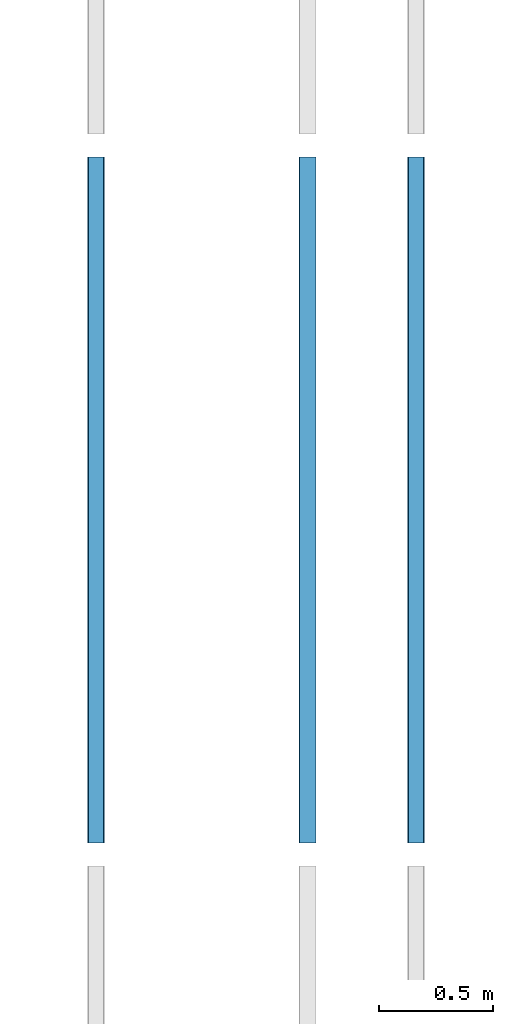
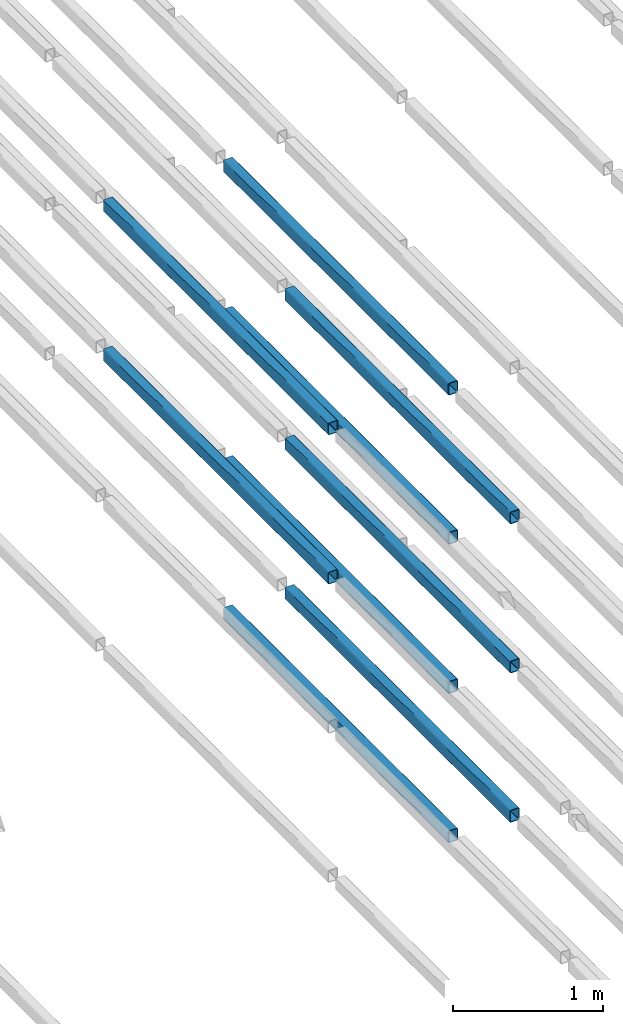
# One storey, part 59 of 290: 9 beams.
"""IFC2X3 building model written with IfcOpenShell, lengths in metres."""

from ifc_helpers import new_model, entity, si_unit, converted_unit, derived_unit, direction, frame, frame_2d, origin, place, context, subcontext, project, spatial, polyline, circle_curve, parameter, trimmed, segment, composite_curve, outline, extrude, material, type_object, element, save


model = new_model("IFC2X3")

# Units and contexts
model_context = context("Model", 3, precision=1e-05, world=origin(), true_north=direction((6.12303176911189e-17, 1.0)))
body_context = subcontext(model_context, "Body", "Model", "MODEL_VIEW")
ifc_project = project(units=[si_unit("LENGTHUNIT", "METRE"), si_unit("AREAUNIT", "SQUARE_METRE"), si_unit("VOLUMEUNIT", "CUBIC_METRE"), converted_unit("PLANEANGLEUNIT", "DEGREE", entity("IfcRatioMeasure", 0.0174532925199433), si_unit("PLANEANGLEUNIT", "RADIAN"), dimensions=[0, 0, 0, 0, 0, 0, 0]), si_unit("MASSUNIT", "GRAM", prefix="KILO"), derived_unit("MASSDENSITYUNIT", [(si_unit("MASSUNIT", "GRAM", prefix="KILO"), 1), (si_unit("LENGTHUNIT", "METRE"), -3)]), derived_unit("MOMENTOFINERTIAUNIT", [(si_unit("LENGTHUNIT", "METRE"), 4)]), si_unit("TIMEUNIT", "SECOND"), si_unit("FREQUENCYUNIT", "HERTZ"), si_unit("THERMODYNAMICTEMPERATUREUNIT", "DEGREE_CELSIUS"), derived_unit("THERMALTRANSMITTANCEUNIT", [(si_unit("MASSUNIT", "GRAM", prefix="KILO"), 1), (si_unit("THERMODYNAMICTEMPERATUREUNIT", "KELVIN"), -1), (si_unit("TIMEUNIT", "SECOND"), -3)]), derived_unit("VOLUMETRICFLOWRATEUNIT", [(si_unit("LENGTHUNIT", "METRE"), 3), (si_unit("TIMEUNIT", "SECOND"), -1)]), si_unit("ELECTRICCURRENTUNIT", "AMPERE"), si_unit("ELECTRICVOLTAGEUNIT", "VOLT"), si_unit("POWERUNIT", "WATT"), si_unit("FORCEUNIT", "NEWTON", prefix="KILO"), si_unit("ILLUMINANCEUNIT", "LUX"), si_unit("LUMINOUSFLUXUNIT", "LUMEN"), si_unit("LUMINOUSINTENSITYUNIT", "CANDELA"), derived_unit("USERDEFINED", [(si_unit("MASSUNIT", "GRAM", prefix="KILO"), -1), (si_unit("LENGTHUNIT", "METRE"), -2), (si_unit("TIMEUNIT", "SECOND"), 3), (si_unit("LUMINOUSFLUXUNIT", "LUMEN"), 1)]), derived_unit("LINEARVELOCITYUNIT", [(si_unit("LENGTHUNIT", "METRE"), 1), (si_unit("TIMEUNIT", "SECOND"), -1)]), si_unit("PRESSUREUNIT", "PASCAL"), derived_unit("USERDEFINED", [(si_unit("LENGTHUNIT", "METRE"), -2), (si_unit("MASSUNIT", "GRAM", prefix="KILO"), 1), (si_unit("TIMEUNIT", "SECOND"), -2)]), derived_unit("LINEARFORCEUNIT", [(si_unit("MASSUNIT", "GRAM", prefix="KILO"), 1), (si_unit("LENGTHUNIT", "METRE"), 1), (si_unit("TIMEUNIT", "SECOND"), -2), (si_unit("LENGTHUNIT", "METRE"), -1)]), derived_unit("PLANARFORCEUNIT", [(si_unit("MASSUNIT", "GRAM", prefix="KILO"), 1), (si_unit("LENGTHUNIT", "METRE"), 1), (si_unit("TIMEUNIT", "SECOND"), -2), (si_unit("LENGTHUNIT", "METRE"), -2)])], contexts=[model_context])

# Site, building, storey
site_placement = place(None, origin())
site = spatial("IfcSite", under=ifc_project, at=site_placement, Name="Default", CompositionType="ELEMENT")
building_placement = place(site_placement, origin())
building = spatial("IfcBuilding", under=site, at=building_placement, CompositionType="ELEMENT")
storey_placement = place(building_placement, frame((0.0, 0.0, 4.0)))
storey = spatial("IfcBuildingStorey", under=building, at=storey_placement, Name="01_OG", CompositionType="ELEMENT", Elevation=4.0)

# Beams
ifc_material = material(Name="Metall - Baustahl S235 blau")
beam_type = type_object("IfcBeamType", Name="RHS Träger (EN 10219-2):RHS 100 x 75 x 5", PredefinedType="NOTDEFINED")
beam_1_placement = place(storey_placement, frame((-196.415111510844, 39.548088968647, 1.23), z_axis=(0.0, 0.0, 1.0), x_axis=(0.0, 1.0, 0.0)))
element("IfcBeam", 1, at=beam_1_placement, inside=storey, type_object=beam_type, material=ifc_material, Name="RHS Träger (EN 10219-2):RHS 100 x 75 x 5", ObjectType="RHS Träger (EN 10219-2):RHS 100 x 75 x 5", context=body_context, shape_type="SweptSolid", body=[
    extrude(outline(composite_curve([segment(trimmed(circle_curve(frame_2d((-0.0274999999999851, -0.0399999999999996), x_axis=(1.0, 0.0)), 0.01), [parameter(180.0)], [parameter(270.0)], True, "PARAMETER"), True, "CONTINUOUS"), segment(polyline([(-0.0274999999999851, -0.0499999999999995), (0.0274999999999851, -0.0499999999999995)]), True, "CONTINUOUS"), segment(trimmed(circle_curve(frame_2d((0.0274999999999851, -0.0399999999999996), x_axis=(1.0, 0.0)), 0.01), [parameter(270.0)], [parameter(5.08888749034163e-14)], True, "PARAMETER"), True, "CONTINUOUS"), segment(polyline([(0.0375000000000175, -0.0399999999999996), (0.0375000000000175, 0.0399999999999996)]), True, "CONTINUOUS"), segment(trimmed(circle_curve(frame_2d((0.0274999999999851, 0.0399999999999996), x_axis=(1.0, 0.0)), 0.01), [parameter(360.0)], [parameter(89.9999999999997)], True, "PARAMETER"), True, "CONTINUOUS"), segment(polyline([(0.0274999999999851, 0.0500000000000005), (-0.0274999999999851, 0.0500000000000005)]), True, "CONTINUOUS"), segment(trimmed(circle_curve(frame_2d((-0.0274999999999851, 0.0399999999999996), x_axis=(1.0, 0.0)), 0.01), [parameter(90.0000000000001)], [parameter(180.0)], True, "PARAMETER"), True, "CONTINUOUS"), segment(polyline([(-0.0374999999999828, 0.0399999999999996), (-0.0374999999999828, -0.0399999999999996)]), True, "CONTINUOUS")], self_intersect=False), holes=[composite_curve([segment(polyline([(0.0274999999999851, -0.0450000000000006), (-0.0274999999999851, -0.0450000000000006)]), True, "CONTINUOUS"), segment(trimmed(circle_curve(frame_2d((-0.0274999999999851, -0.0400000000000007), x_axis=(1.0, 0.0)), 0.005), [parameter(180.0)], [parameter(270.0)], True, "PARAMETER"), False, "CONTINUOUS"), segment(polyline([(-0.0325000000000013, -0.0400000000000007), (-0.0325000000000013, 0.0399999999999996)]), True, "CONTINUOUS"), segment(trimmed(circle_curve(frame_2d((-0.0274999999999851, 0.0399999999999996), x_axis=(1.0, 0.0)), 0.005), [parameter(90.0000000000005)], [parameter(180.0)], True, "PARAMETER"), False, "CONTINUOUS"), segment(polyline([(-0.0274999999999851, 0.0449999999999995), (0.0274999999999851, 0.0449999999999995)]), True, "CONTINUOUS"), segment(trimmed(circle_curve(frame_2d((0.0274999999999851, 0.0399999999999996), x_axis=(1.0, 0.0)), 0.005), [parameter(0.0)], [parameter(90.0000000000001)], True, "PARAMETER"), False, "CONTINUOUS"), segment(polyline([(0.0325000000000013, 0.0399999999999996), (0.0325000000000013, -0.0400000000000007)]), True, "CONTINUOUS"), segment(trimmed(circle_curve(frame_2d((0.0274999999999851, -0.0400000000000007), x_axis=(1.0, 0.0)), 0.005), [parameter(270.0)], [parameter(4.07110999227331e-13)], True, "PARAMETER"), False, "CONTINUOUS")], self_intersect=False)]), frame((0.000100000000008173, 0.0375000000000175, -0.0500000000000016), z_axis=(1.0, 0.0, 0.0), x_axis=(0.0, -1.0, 0.0)), (0.0, 0.0, 1.0), 2.99979999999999),
])
beam_2_placement = place(storey_placement, frame((-196.415111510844, 39.548088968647, 2.445), z_axis=(0.0, 0.0, 1.0), x_axis=(0.0, 1.0, 0.0)))
element("IfcBeam", 2, at=beam_2_placement, inside=storey, type_object=beam_type, material=ifc_material, Name="RHS Träger (EN 10219-2):RHS 100 x 75 x 5", ObjectType="RHS Träger (EN 10219-2):RHS 100 x 75 x 5", context=body_context, shape_type="SweptSolid", body=[
    extrude(outline(composite_curve([segment(trimmed(circle_curve(frame_2d((-0.0274999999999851, -0.0399999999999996), x_axis=(1.0, 0.0)), 0.01), [parameter(180.0)], [parameter(270.0)], True, "PARAMETER"), True, "CONTINUOUS"), segment(polyline([(-0.0274999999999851, -0.0499999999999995), (0.0274999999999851, -0.0499999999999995)]), True, "CONTINUOUS"), segment(trimmed(circle_curve(frame_2d((0.0274999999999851, -0.0399999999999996), x_axis=(1.0, 0.0)), 0.01), [parameter(270.0)], [parameter(5.08888749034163e-14)], True, "PARAMETER"), True, "CONTINUOUS"), segment(polyline([(0.0375000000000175, -0.0399999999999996), (0.0375000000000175, 0.0399999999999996)]), True, "CONTINUOUS"), segment(trimmed(circle_curve(frame_2d((0.0274999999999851, 0.0399999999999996), x_axis=(1.0, 0.0)), 0.01), [parameter(360.0)], [parameter(89.9999999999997)], True, "PARAMETER"), True, "CONTINUOUS"), segment(polyline([(0.0274999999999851, 0.0500000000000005), (-0.0274999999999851, 0.0500000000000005)]), True, "CONTINUOUS"), segment(trimmed(circle_curve(frame_2d((-0.0274999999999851, 0.0399999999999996), x_axis=(1.0, 0.0)), 0.01), [parameter(90.0000000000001)], [parameter(180.0)], True, "PARAMETER"), True, "CONTINUOUS"), segment(polyline([(-0.0374999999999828, 0.0399999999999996), (-0.0374999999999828, -0.0399999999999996)]), True, "CONTINUOUS")], self_intersect=False), holes=[composite_curve([segment(polyline([(0.0274999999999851, -0.0450000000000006), (-0.0274999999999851, -0.0450000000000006)]), True, "CONTINUOUS"), segment(trimmed(circle_curve(frame_2d((-0.0274999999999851, -0.0400000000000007), x_axis=(1.0, 0.0)), 0.005), [parameter(180.0)], [parameter(270.0)], True, "PARAMETER"), False, "CONTINUOUS"), segment(polyline([(-0.0325000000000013, -0.0400000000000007), (-0.0325000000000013, 0.0399999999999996)]), True, "CONTINUOUS"), segment(trimmed(circle_curve(frame_2d((-0.0274999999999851, 0.0399999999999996), x_axis=(1.0, 0.0)), 0.005), [parameter(90.0000000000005)], [parameter(180.0)], True, "PARAMETER"), False, "CONTINUOUS"), segment(polyline([(-0.0274999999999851, 0.0449999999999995), (0.0274999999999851, 0.0449999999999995)]), True, "CONTINUOUS"), segment(trimmed(circle_curve(frame_2d((0.0274999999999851, 0.0399999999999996), x_axis=(1.0, 0.0)), 0.005), [parameter(0.0)], [parameter(90.0000000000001)], True, "PARAMETER"), False, "CONTINUOUS"), segment(polyline([(0.0325000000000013, 0.0399999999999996), (0.0325000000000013, -0.0400000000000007)]), True, "CONTINUOUS"), segment(trimmed(circle_curve(frame_2d((0.0274999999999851, -0.0400000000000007), x_axis=(1.0, 0.0)), 0.005), [parameter(270.0)], [parameter(4.07110999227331e-13)], True, "PARAMETER"), False, "CONTINUOUS")], self_intersect=False)]), frame((0.000100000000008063, 0.0375000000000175, -0.0500000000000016), z_axis=(1.0, 0.0, 0.0), x_axis=(0.0, -1.0, 0.0)), (0.0, 0.0, 1.0), 2.99979999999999),
])
beam_3_placement = place(storey_placement, frame((-195.565111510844, 39.548088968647, -1.2), z_axis=(0.0, 0.0, 1.0), x_axis=(0.0, 1.0, 0.0)))
element("IfcBeam", 3, at=beam_3_placement, inside=storey, type_object=beam_type, material=ifc_material, Name="RHS Träger (EN 10219-2):RHS 100 x 75 x 5", ObjectType="RHS Träger (EN 10219-2):RHS 100 x 75 x 5", context=body_context, shape_type="SweptSolid", body=[
    extrude(outline(composite_curve([segment(polyline([(-0.0400000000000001, -0.0374999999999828), (0.0400000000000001, -0.0374999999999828)]), True, "CONTINUOUS"), segment(trimmed(circle_curve(frame_2d((0.0400000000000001, -0.0274999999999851), x_axis=(0.0, 1.0)), 0.01), [parameter(180.0)], [parameter(270.0)], True, "PARAMETER"), True, "CONTINUOUS"), segment(polyline([(0.05, -0.0274999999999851), (0.05, 0.0274999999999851)]), True, "CONTINUOUS"), segment(trimmed(circle_curve(frame_2d((0.0400000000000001, 0.0274999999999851), x_axis=(0.0, 1.0)), 0.01), [parameter(270.0)], [parameter(4.07110999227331e-13)], True, "PARAMETER"), True, "CONTINUOUS"), segment(polyline([(0.0400000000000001, 0.0375000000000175), (-0.0400000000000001, 0.0375000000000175)]), True, "CONTINUOUS"), segment(trimmed(circle_curve(frame_2d((-0.0400000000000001, 0.0274999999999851), x_axis=(0.0, 1.0)), 0.01), [parameter(360.0)], [parameter(90.0000000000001)], True, "PARAMETER"), True, "CONTINUOUS"), segment(polyline([(-0.05, 0.0274999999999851), (-0.05, -0.0274999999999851)]), True, "CONTINUOUS"), segment(trimmed(circle_curve(frame_2d((-0.0400000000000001, -0.0274999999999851), x_axis=(0.0, 1.0)), 0.01), [parameter(90.0000000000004)], [parameter(180.0)], True, "PARAMETER"), True, "CONTINUOUS")], self_intersect=False), holes=[composite_curve([segment(trimmed(circle_curve(frame_2d((-0.0400000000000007, 0.0274999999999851), x_axis=(0.0, 1.0)), 0.005), [parameter(360.0)], [parameter(89.9999999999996)], True, "PARAMETER"), False, "CONTINUOUS"), segment(polyline([(-0.0400000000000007, 0.0325000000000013), (0.039999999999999, 0.0325000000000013)]), True, "CONTINUOUS"), segment(trimmed(circle_curve(frame_2d((0.039999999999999, 0.0274999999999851), x_axis=(0.0, 1.0)), 0.005), [parameter(270.0)], [parameter(0.0)], True, "PARAMETER"), False, "CONTINUOUS"), segment(polyline([(0.044999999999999, 0.0274999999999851), (0.044999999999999, -0.0274999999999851)]), True, "CONTINUOUS"), segment(trimmed(circle_curve(frame_2d((0.039999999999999, -0.0274999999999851), x_axis=(0.0, 1.0)), 0.005), [parameter(180.0)], [parameter(269.999999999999)], True, "PARAMETER"), False, "CONTINUOUS"), segment(polyline([(0.039999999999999, -0.0325000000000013), (-0.0400000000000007, -0.0325000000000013)]), True, "CONTINUOUS"), segment(trimmed(circle_curve(frame_2d((-0.0400000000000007, -0.0274999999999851), x_axis=(0.0, 1.0)), 0.005), [parameter(90.0000000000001)], [parameter(180.0)], True, "PARAMETER"), False, "CONTINUOUS"), segment(polyline([(-0.0450000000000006, -0.0274999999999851), (-0.0450000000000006, 0.0274999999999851)]), True, "CONTINUOUS")], self_intersect=False)]), frame((0.000100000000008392, -0.0375000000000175, -0.0500000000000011), z_axis=(1.0, 0.0, 0.0), x_axis=(0.0, 0.0, -1.0)), (0.0, 0.0, 1.0), 2.99979999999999),
])
beam_4_placement = place(storey_placement, frame((-195.565111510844, 39.548088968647, 0.0150000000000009), z_axis=(0.0, 0.0, 1.0), x_axis=(0.0, 1.0, 0.0)))
element("IfcBeam", 4, at=beam_4_placement, inside=storey, type_object=beam_type, material=ifc_material, Name="RHS Träger (EN 10219-2):RHS 100 x 75 x 5", ObjectType="RHS Träger (EN 10219-2):RHS 100 x 75 x 5", context=body_context, shape_type="SweptSolid", body=[
    extrude(outline(composite_curve([segment(polyline([(-0.0400000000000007, -0.0374999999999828), (0.0399999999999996, -0.0374999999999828)]), True, "CONTINUOUS"), segment(trimmed(circle_curve(frame_2d((0.0399999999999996, -0.0274999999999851), x_axis=(0.0, 1.0)), 0.01), [parameter(180.0)], [parameter(270.0)], True, "PARAMETER"), True, "CONTINUOUS"), segment(polyline([(0.0499999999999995, -0.0274999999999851), (0.0499999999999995, 0.0274999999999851)]), True, "CONTINUOUS"), segment(trimmed(circle_curve(frame_2d((0.0399999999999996, 0.0274999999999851), x_axis=(0.0, 1.0)), 0.01), [parameter(270.0)], [parameter(4.07110999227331e-13)], True, "PARAMETER"), True, "CONTINUOUS"), segment(polyline([(0.0399999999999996, 0.0375000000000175), (-0.0400000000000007, 0.0375000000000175)]), True, "CONTINUOUS"), segment(trimmed(circle_curve(frame_2d((-0.0400000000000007, 0.0274999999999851), x_axis=(0.0, 1.0)), 0.01), [parameter(360.0)], [parameter(90.0000000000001)], True, "PARAMETER"), True, "CONTINUOUS"), segment(polyline([(-0.0500000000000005, 0.0274999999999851), (-0.0500000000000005, -0.0274999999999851)]), True, "CONTINUOUS"), segment(trimmed(circle_curve(frame_2d((-0.0400000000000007, -0.0274999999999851), x_axis=(0.0, 1.0)), 0.01), [parameter(90.0000000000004)], [parameter(180.0)], True, "PARAMETER"), True, "CONTINUOUS")], self_intersect=False), holes=[composite_curve([segment(trimmed(circle_curve(frame_2d((-0.0400000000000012, 0.0274999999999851), x_axis=(0.0, 1.0)), 0.005), [parameter(360.0)], [parameter(89.9999999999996)], True, "PARAMETER"), False, "CONTINUOUS"), segment(polyline([(-0.0400000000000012, 0.0325000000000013), (0.0399999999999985, 0.0325000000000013)]), True, "CONTINUOUS"), segment(trimmed(circle_curve(frame_2d((0.0399999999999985, 0.0274999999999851), x_axis=(0.0, 1.0)), 0.005), [parameter(270.0)], [parameter(0.0)], True, "PARAMETER"), False, "CONTINUOUS"), segment(polyline([(0.0449999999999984, 0.0274999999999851), (0.0449999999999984, -0.0274999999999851)]), True, "CONTINUOUS"), segment(trimmed(circle_curve(frame_2d((0.0399999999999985, -0.0274999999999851), x_axis=(0.0, 1.0)), 0.005), [parameter(180.0)], [parameter(269.999999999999)], True, "PARAMETER"), False, "CONTINUOUS"), segment(polyline([(0.0399999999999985, -0.0325000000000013), (-0.0400000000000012, -0.0325000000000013)]), True, "CONTINUOUS"), segment(trimmed(circle_curve(frame_2d((-0.0400000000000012, -0.0274999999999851), x_axis=(0.0, 1.0)), 0.005), [parameter(90.0000000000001)], [parameter(180.0)], True, "PARAMETER"), False, "CONTINUOUS"), segment(polyline([(-0.0450000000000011, -0.0274999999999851), (-0.0450000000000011, 0.0274999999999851)]), True, "CONTINUOUS")], self_intersect=False)]), frame((0.000100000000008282, -0.0375000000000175, -0.0500000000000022), z_axis=(1.0, 0.0, 0.0), x_axis=(0.0, 0.0, -1.0)), (0.0, 0.0, 1.0), 2.99979999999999),
])
beam_5_placement = place(storey_placement, frame((-195.565111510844, 39.548088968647, 1.23), z_axis=(0.0, 0.0, 1.0), x_axis=(0.0, 1.0, 0.0)))
element("IfcBeam", 5, at=beam_5_placement, inside=storey, type_object=beam_type, material=ifc_material, Name="RHS Träger (EN 10219-2):RHS 100 x 75 x 5", ObjectType="RHS Träger (EN 10219-2):RHS 100 x 75 x 5", context=body_context, shape_type="SweptSolid", body=[
    extrude(outline(composite_curve([segment(polyline([(-0.0399999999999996, -0.0374999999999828), (0.0399999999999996, -0.0374999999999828)]), True, "CONTINUOUS"), segment(trimmed(circle_curve(frame_2d((0.0399999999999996, -0.0274999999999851), x_axis=(0.0, 1.0)), 0.01), [parameter(180.0)], [parameter(270.0)], True, "PARAMETER"), True, "CONTINUOUS"), segment(polyline([(0.0500000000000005, -0.0274999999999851), (0.0500000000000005, 0.0274999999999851)]), True, "CONTINUOUS"), segment(trimmed(circle_curve(frame_2d((0.0399999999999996, 0.0274999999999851), x_axis=(0.0, 1.0)), 0.01), [parameter(270.0)], [parameter(4.07110999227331e-13)], True, "PARAMETER"), True, "CONTINUOUS"), segment(polyline([(0.0399999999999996, 0.0375000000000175), (-0.0399999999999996, 0.0375000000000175)]), True, "CONTINUOUS"), segment(trimmed(circle_curve(frame_2d((-0.0399999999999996, 0.0274999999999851), x_axis=(0.0, 1.0)), 0.01), [parameter(360.0)], [parameter(90.0000000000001)], True, "PARAMETER"), True, "CONTINUOUS"), segment(polyline([(-0.0499999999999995, 0.0274999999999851), (-0.0499999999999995, -0.0274999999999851)]), True, "CONTINUOUS"), segment(trimmed(circle_curve(frame_2d((-0.0399999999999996, -0.0274999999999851), x_axis=(0.0, 1.0)), 0.01), [parameter(90.0000000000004)], [parameter(180.0)], True, "PARAMETER"), True, "CONTINUOUS")], self_intersect=False), holes=[composite_curve([segment(trimmed(circle_curve(frame_2d((-0.0400000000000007, 0.0274999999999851), x_axis=(0.0, 1.0)), 0.005), [parameter(360.0)], [parameter(89.9999999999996)], True, "PARAMETER"), False, "CONTINUOUS"), segment(polyline([(-0.0400000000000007, 0.0325000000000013), (0.0399999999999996, 0.0325000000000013)]), True, "CONTINUOUS"), segment(trimmed(circle_curve(frame_2d((0.0399999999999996, 0.0274999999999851), x_axis=(0.0, 1.0)), 0.005), [parameter(270.0)], [parameter(0.0)], True, "PARAMETER"), False, "CONTINUOUS"), segment(polyline([(0.0449999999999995, 0.0274999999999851), (0.0449999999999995, -0.0274999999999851)]), True, "CONTINUOUS"), segment(trimmed(circle_curve(frame_2d((0.0399999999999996, -0.0274999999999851), x_axis=(0.0, 1.0)), 0.005), [parameter(180.0)], [parameter(269.999999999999)], True, "PARAMETER"), False, "CONTINUOUS"), segment(polyline([(0.0399999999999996, -0.0325000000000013), (-0.0400000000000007, -0.0325000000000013)]), True, "CONTINUOUS"), segment(trimmed(circle_curve(frame_2d((-0.0400000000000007, -0.0274999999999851), x_axis=(0.0, 1.0)), 0.005), [parameter(90.0000000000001)], [parameter(180.0)], True, "PARAMETER"), False, "CONTINUOUS"), segment(polyline([(-0.0450000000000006, -0.0274999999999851), (-0.0450000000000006, 0.0274999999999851)]), True, "CONTINUOUS")], self_intersect=False)]), frame((0.000100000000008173, -0.0375000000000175, -0.0500000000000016), z_axis=(1.0, 0.0, 0.0), x_axis=(0.0, 0.0, -1.0)), (0.0, 0.0, 1.0), 2.99979999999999),
])
beam_6_placement = place(storey_placement, frame((-195.565111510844, 39.548088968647, 2.445), z_axis=(0.0, 0.0, 1.0), x_axis=(0.0, 1.0, 0.0)))
element("IfcBeam", 6, at=beam_6_placement, inside=storey, type_object=beam_type, material=ifc_material, Name="RHS Träger (EN 10219-2):RHS 100 x 75 x 5", ObjectType="RHS Träger (EN 10219-2):RHS 100 x 75 x 5", context=body_context, shape_type="SweptSolid", body=[
    extrude(outline(composite_curve([segment(polyline([(-0.0399999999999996, -0.0374999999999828), (0.0399999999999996, -0.0374999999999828)]), True, "CONTINUOUS"), segment(trimmed(circle_curve(frame_2d((0.0399999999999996, -0.0274999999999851), x_axis=(0.0, 1.0)), 0.01), [parameter(180.0)], [parameter(270.0)], True, "PARAMETER"), True, "CONTINUOUS"), segment(polyline([(0.0500000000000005, -0.0274999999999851), (0.0500000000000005, 0.0274999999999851)]), True, "CONTINUOUS"), segment(trimmed(circle_curve(frame_2d((0.0399999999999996, 0.0274999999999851), x_axis=(0.0, 1.0)), 0.01), [parameter(270.0)], [parameter(4.07110999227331e-13)], True, "PARAMETER"), True, "CONTINUOUS"), segment(polyline([(0.0399999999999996, 0.0375000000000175), (-0.0399999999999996, 0.0375000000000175)]), True, "CONTINUOUS"), segment(trimmed(circle_curve(frame_2d((-0.0399999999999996, 0.0274999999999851), x_axis=(0.0, 1.0)), 0.01), [parameter(360.0)], [parameter(90.0000000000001)], True, "PARAMETER"), True, "CONTINUOUS"), segment(polyline([(-0.0499999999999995, 0.0274999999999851), (-0.0499999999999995, -0.0274999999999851)]), True, "CONTINUOUS"), segment(trimmed(circle_curve(frame_2d((-0.0399999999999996, -0.0274999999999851), x_axis=(0.0, 1.0)), 0.01), [parameter(90.0000000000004)], [parameter(180.0)], True, "PARAMETER"), True, "CONTINUOUS")], self_intersect=False), holes=[composite_curve([segment(trimmed(circle_curve(frame_2d((-0.0400000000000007, 0.0274999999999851), x_axis=(0.0, 1.0)), 0.005), [parameter(360.0)], [parameter(89.9999999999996)], True, "PARAMETER"), False, "CONTINUOUS"), segment(polyline([(-0.0400000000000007, 0.0325000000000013), (0.0399999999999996, 0.0325000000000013)]), True, "CONTINUOUS"), segment(trimmed(circle_curve(frame_2d((0.0399999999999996, 0.0274999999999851), x_axis=(0.0, 1.0)), 0.005), [parameter(270.0)], [parameter(0.0)], True, "PARAMETER"), False, "CONTINUOUS"), segment(polyline([(0.0449999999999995, 0.0274999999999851), (0.0449999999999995, -0.0274999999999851)]), True, "CONTINUOUS"), segment(trimmed(circle_curve(frame_2d((0.0399999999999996, -0.0274999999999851), x_axis=(0.0, 1.0)), 0.005), [parameter(180.0)], [parameter(269.999999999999)], True, "PARAMETER"), False, "CONTINUOUS"), segment(polyline([(0.0399999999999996, -0.0325000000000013), (-0.0400000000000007, -0.0325000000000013)]), True, "CONTINUOUS"), segment(trimmed(circle_curve(frame_2d((-0.0400000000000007, -0.0274999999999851), x_axis=(0.0, 1.0)), 0.005), [parameter(90.0000000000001)], [parameter(180.0)], True, "PARAMETER"), False, "CONTINUOUS"), segment(polyline([(-0.0450000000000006, -0.0274999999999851), (-0.0450000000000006, 0.0274999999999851)]), True, "CONTINUOUS")], self_intersect=False)]), frame((0.000100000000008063, -0.0375000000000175, -0.0500000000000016), z_axis=(1.0, 0.0, 0.0), x_axis=(0.0, 0.0, -1.0)), (0.0, 0.0, 1.0), 2.99979999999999),
])
beam_7_placement = place(storey_placement, frame((-195.015111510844, 39.548088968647, -1.2), z_axis=(0.0, 0.0, 1.0), x_axis=(0.0, 1.0, 0.0)))
element("IfcBeam", 7, at=beam_7_placement, inside=storey, type_object=beam_type, material=ifc_material, Name="RHS Träger (EN 10219-2):RHS 100 x 75 x 5", ObjectType="RHS Träger (EN 10219-2):RHS 100 x 75 x 5", context=body_context, shape_type="SweptSolid", body=[
    extrude(outline(composite_curve([segment(trimmed(circle_curve(frame_2d((-0.0275000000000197, -0.0400000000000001), x_axis=(1.0, 0.0)), 0.01), [parameter(180.0)], [parameter(270.0)], True, "PARAMETER"), True, "CONTINUOUS"), segment(polyline([(-0.0275000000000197, -0.05), (0.0274999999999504, -0.05)]), True, "CONTINUOUS"), segment(trimmed(circle_curve(frame_2d((0.0274999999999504, -0.0400000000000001), x_axis=(1.0, 0.0)), 0.01), [parameter(270.0)], [parameter(5.08888749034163e-14)], True, "PARAMETER"), True, "CONTINUOUS"), segment(polyline([(0.0374999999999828, -0.0400000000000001), (0.0374999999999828, 0.0400000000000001)]), True, "CONTINUOUS"), segment(trimmed(circle_curve(frame_2d((0.0274999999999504, 0.0400000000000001), x_axis=(1.0, 0.0)), 0.01), [parameter(360.0)], [parameter(89.9999999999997)], True, "PARAMETER"), True, "CONTINUOUS"), segment(polyline([(0.0274999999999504, 0.05), (-0.0275000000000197, 0.05)]), True, "CONTINUOUS"), segment(trimmed(circle_curve(frame_2d((-0.0275000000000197, 0.0400000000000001), x_axis=(1.0, 0.0)), 0.01), [parameter(90.0000000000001)], [parameter(180.0)], True, "PARAMETER"), True, "CONTINUOUS"), segment(polyline([(-0.0375000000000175, 0.0400000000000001), (-0.0375000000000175, -0.0400000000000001)]), True, "CONTINUOUS")], self_intersect=False), holes=[composite_curve([segment(polyline([(0.0274999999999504, -0.0450000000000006), (-0.0275000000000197, -0.0450000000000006)]), True, "CONTINUOUS"), segment(trimmed(circle_curve(frame_2d((-0.0275000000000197, -0.0400000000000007), x_axis=(1.0, 0.0)), 0.005), [parameter(180.0)], [parameter(270.0)], True, "PARAMETER"), False, "CONTINUOUS"), segment(polyline([(-0.0325000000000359, -0.0400000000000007), (-0.0325000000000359, 0.039999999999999)]), True, "CONTINUOUS"), segment(trimmed(circle_curve(frame_2d((-0.0275000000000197, 0.039999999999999), x_axis=(1.0, 0.0)), 0.005), [parameter(90.0000000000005)], [parameter(180.0)], True, "PARAMETER"), False, "CONTINUOUS"), segment(polyline([(-0.0275000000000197, 0.044999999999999), (0.0274999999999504, 0.044999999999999)]), True, "CONTINUOUS"), segment(trimmed(circle_curve(frame_2d((0.0274999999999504, 0.039999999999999), x_axis=(1.0, 0.0)), 0.005), [parameter(0.0)], [parameter(90.0000000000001)], True, "PARAMETER"), False, "CONTINUOUS"), segment(polyline([(0.0324999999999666, 0.039999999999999), (0.0324999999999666, -0.0400000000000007)]), True, "CONTINUOUS"), segment(trimmed(circle_curve(frame_2d((0.0274999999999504, -0.0400000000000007), x_axis=(1.0, 0.0)), 0.005), [parameter(270.0)], [parameter(4.07110999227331e-13)], True, "PARAMETER"), False, "CONTINUOUS")], self_intersect=False)]), frame((0.000100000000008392, 0.0374999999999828, -0.0500000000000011), z_axis=(1.0, 0.0, 0.0), x_axis=(0.0, -1.0, 0.0)), (0.0, 0.0, 1.0), 2.99979999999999),
])
beam_8_placement = place(storey_placement, frame((-195.015111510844, 39.548088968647, 0.0150000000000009), z_axis=(0.0, 0.0, 1.0), x_axis=(0.0, 1.0, 0.0)))
element("IfcBeam", 8, at=beam_8_placement, inside=storey, type_object=beam_type, material=ifc_material, Name="RHS Träger (EN 10219-2):RHS 100 x 75 x 5", ObjectType="RHS Träger (EN 10219-2):RHS 100 x 75 x 5", context=body_context, shape_type="SweptSolid", body=[
    extrude(outline(composite_curve([segment(trimmed(circle_curve(frame_2d((-0.0275000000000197, -0.0400000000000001), x_axis=(1.0, 0.0)), 0.01), [parameter(180.0)], [parameter(270.0)], True, "PARAMETER"), True, "CONTINUOUS"), segment(polyline([(-0.0275000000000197, -0.05), (0.0274999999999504, -0.05)]), True, "CONTINUOUS"), segment(trimmed(circle_curve(frame_2d((0.0274999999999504, -0.0400000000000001), x_axis=(1.0, 0.0)), 0.01), [parameter(270.0)], [parameter(5.08888749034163e-14)], True, "PARAMETER"), True, "CONTINUOUS"), segment(polyline([(0.0374999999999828, -0.0400000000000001), (0.0374999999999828, 0.0400000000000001)]), True, "CONTINUOUS"), segment(trimmed(circle_curve(frame_2d((0.0274999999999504, 0.0400000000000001), x_axis=(1.0, 0.0)), 0.01), [parameter(360.0)], [parameter(89.9999999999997)], True, "PARAMETER"), True, "CONTINUOUS"), segment(polyline([(0.0274999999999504, 0.05), (-0.0275000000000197, 0.05)]), True, "CONTINUOUS"), segment(trimmed(circle_curve(frame_2d((-0.0275000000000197, 0.0400000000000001), x_axis=(1.0, 0.0)), 0.01), [parameter(90.0000000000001)], [parameter(180.0)], True, "PARAMETER"), True, "CONTINUOUS"), segment(polyline([(-0.0375000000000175, 0.0400000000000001), (-0.0375000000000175, -0.0400000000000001)]), True, "CONTINUOUS")], self_intersect=False), holes=[composite_curve([segment(polyline([(0.0274999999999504, -0.0450000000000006), (-0.0275000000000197, -0.0450000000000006)]), True, "CONTINUOUS"), segment(trimmed(circle_curve(frame_2d((-0.0275000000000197, -0.0400000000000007), x_axis=(1.0, 0.0)), 0.005), [parameter(180.0)], [parameter(270.0)], True, "PARAMETER"), False, "CONTINUOUS"), segment(polyline([(-0.0325000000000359, -0.0400000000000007), (-0.0325000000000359, 0.039999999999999)]), True, "CONTINUOUS"), segment(trimmed(circle_curve(frame_2d((-0.0275000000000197, 0.039999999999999), x_axis=(1.0, 0.0)), 0.005), [parameter(90.0000000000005)], [parameter(180.0)], True, "PARAMETER"), False, "CONTINUOUS"), segment(polyline([(-0.0275000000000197, 0.044999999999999), (0.0274999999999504, 0.044999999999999)]), True, "CONTINUOUS"), segment(trimmed(circle_curve(frame_2d((0.0274999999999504, 0.039999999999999), x_axis=(1.0, 0.0)), 0.005), [parameter(0.0)], [parameter(90.0000000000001)], True, "PARAMETER"), False, "CONTINUOUS"), segment(polyline([(0.0324999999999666, 0.039999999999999), (0.0324999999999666, -0.0400000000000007)]), True, "CONTINUOUS"), segment(trimmed(circle_curve(frame_2d((0.0274999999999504, -0.0400000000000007), x_axis=(1.0, 0.0)), 0.005), [parameter(270.0)], [parameter(4.07110999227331e-13)], True, "PARAMETER"), False, "CONTINUOUS")], self_intersect=False)]), frame((0.000100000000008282, 0.0374999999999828, -0.0500000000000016), z_axis=(1.0, 0.0, 0.0), x_axis=(0.0, -1.0, 0.0)), (0.0, 0.0, 1.0), 2.99979999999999),
])
beam_9_placement = place(storey_placement, frame((-195.015111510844, 39.548088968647, 1.23), z_axis=(0.0, 0.0, 1.0), x_axis=(0.0, 1.0, 0.0)))
element("IfcBeam", 9, at=beam_9_placement, inside=storey, type_object=beam_type, material=ifc_material, Name="RHS Träger (EN 10219-2):RHS 100 x 75 x 5", ObjectType="RHS Träger (EN 10219-2):RHS 100 x 75 x 5", context=body_context, shape_type="SweptSolid", body=[
    extrude(outline(composite_curve([segment(trimmed(circle_curve(frame_2d((-0.0275000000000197, -0.0399999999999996), x_axis=(1.0, 0.0)), 0.01), [parameter(180.0)], [parameter(270.0)], True, "PARAMETER"), True, "CONTINUOUS"), segment(polyline([(-0.0275000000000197, -0.0499999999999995), (0.0274999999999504, -0.0499999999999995)]), True, "CONTINUOUS"), segment(trimmed(circle_curve(frame_2d((0.0274999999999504, -0.0399999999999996), x_axis=(1.0, 0.0)), 0.01), [parameter(270.0)], [parameter(5.08888749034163e-14)], True, "PARAMETER"), True, "CONTINUOUS"), segment(polyline([(0.0374999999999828, -0.0399999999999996), (0.0374999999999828, 0.0399999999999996)]), True, "CONTINUOUS"), segment(trimmed(circle_curve(frame_2d((0.0274999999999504, 0.0399999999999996), x_axis=(1.0, 0.0)), 0.01), [parameter(360.0)], [parameter(89.9999999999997)], True, "PARAMETER"), True, "CONTINUOUS"), segment(polyline([(0.0274999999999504, 0.0500000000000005), (-0.0275000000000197, 0.0500000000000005)]), True, "CONTINUOUS"), segment(trimmed(circle_curve(frame_2d((-0.0275000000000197, 0.0399999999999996), x_axis=(1.0, 0.0)), 0.01), [parameter(90.0000000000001)], [parameter(180.0)], True, "PARAMETER"), True, "CONTINUOUS"), segment(polyline([(-0.0375000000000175, 0.0399999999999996), (-0.0375000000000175, -0.0399999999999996)]), True, "CONTINUOUS")], self_intersect=False), holes=[composite_curve([segment(polyline([(0.0274999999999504, -0.0450000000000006), (-0.0275000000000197, -0.0450000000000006)]), True, "CONTINUOUS"), segment(trimmed(circle_curve(frame_2d((-0.0275000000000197, -0.0400000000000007), x_axis=(1.0, 0.0)), 0.005), [parameter(180.0)], [parameter(270.0)], True, "PARAMETER"), False, "CONTINUOUS"), segment(polyline([(-0.0325000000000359, -0.0400000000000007), (-0.0325000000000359, 0.0399999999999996)]), True, "CONTINUOUS"), segment(trimmed(circle_curve(frame_2d((-0.0275000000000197, 0.0399999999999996), x_axis=(1.0, 0.0)), 0.005), [parameter(90.0000000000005)], [parameter(180.0)], True, "PARAMETER"), False, "CONTINUOUS"), segment(polyline([(-0.0275000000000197, 0.0449999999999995), (0.0274999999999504, 0.0449999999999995)]), True, "CONTINUOUS"), segment(trimmed(circle_curve(frame_2d((0.0274999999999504, 0.0399999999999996), x_axis=(1.0, 0.0)), 0.005), [parameter(0.0)], [parameter(90.0000000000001)], True, "PARAMETER"), False, "CONTINUOUS"), segment(polyline([(0.0324999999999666, 0.0399999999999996), (0.0324999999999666, -0.0400000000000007)]), True, "CONTINUOUS"), segment(trimmed(circle_curve(frame_2d((0.0274999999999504, -0.0400000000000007), x_axis=(1.0, 0.0)), 0.005), [parameter(270.0)], [parameter(4.07110999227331e-13)], True, "PARAMETER"), False, "CONTINUOUS")], self_intersect=False)]), frame((0.000100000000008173, 0.0374999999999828, -0.0500000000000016), z_axis=(1.0, 0.0, 0.0), x_axis=(0.0, -1.0, 0.0)), (0.0, 0.0, 1.0), 2.99979999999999),
])

save(model, "model.ifc")
